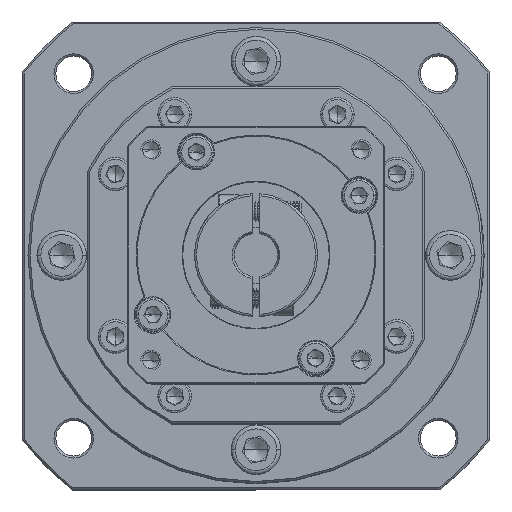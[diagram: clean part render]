
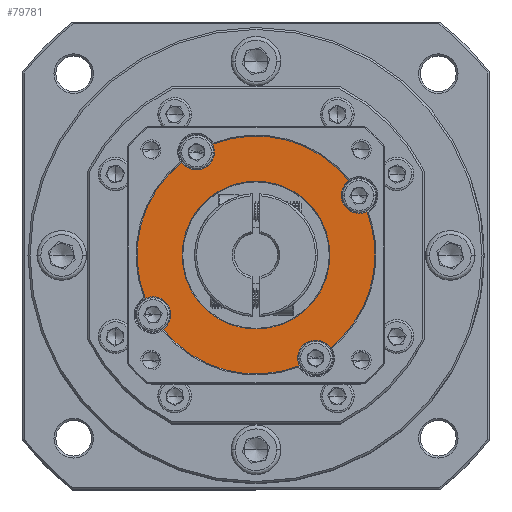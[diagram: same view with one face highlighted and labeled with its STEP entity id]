
A CAD part, top view. The second image highlights one B-rep face of the part: STEP entity #79781.
In plain terms, the highlighted planar face has unit normal (0, 0, 1).
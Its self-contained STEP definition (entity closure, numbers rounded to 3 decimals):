
#1028 = FACE_BOUND ( 'NONE', #116074, .T. ) ;
#1583 = CIRCLE ( 'NONE', #95428, 4.5 ) ;
#2012 = DIRECTION ( 'NONE',  ( 0., 0., 1. ) ) ;
#2435 = VERTEX_POINT ( 'NONE', #46275 ) ;
#2788 = DIRECTION ( 'NONE',  ( 0., 0., 1. ) ) ;
#4963 = VERTEX_POINT ( 'NONE', #48871 ) ;
#5647 = DIRECTION ( 'NONE',  ( 1., 0., 0. ) ) ;
#5939 = DIRECTION ( 'NONE',  ( 1., 0., 0. ) ) ;
#6524 = CARTESIAN_POINT ( 'NONE',  ( -59.469, 29.842, -1.259 ) ) ;
#7277 = VERTEX_POINT ( 'NONE', #35101 ) ;
#7392 = EDGE_CURVE ( 'NONE', #109145, #97842, #29233, .T. ) ;
#8204 = CARTESIAN_POINT ( 'NONE',  ( -87.401, 18.896, -1.259 ) ) ;
#8932 = DIRECTION ( 'NONE',  ( 0., 0., 1. ) ) ;
#9984 = EDGE_CURVE ( 'NONE', #97643, #91898, #62943, .T. ) ;
#11273 = CARTESIAN_POINT ( 'NONE',  ( -59.469, 29.842, -1.259 ) ) ;
#12878 = VERTEX_POINT ( 'NONE', #116821 ) ;
#13223 = ORIENTED_EDGE ( 'NONE', *, *, #26986, .F. ) ;
#14676 = EDGE_CURVE ( 'NONE', #12878, #84021, #45634, .T. ) ;
#15233 = ORIENTED_EDGE ( 'NONE', *, *, #86076, .F. ) ;
#15795 = DIRECTION ( 'NONE',  ( 1., 0., 0. ) ) ;
#16282 = DIRECTION ( 'NONE',  ( 0., 0., 1. ) ) ;
#17124 = EDGE_CURVE ( 'NONE', #7277, #64644, #1583, .T. ) ;
#17535 = AXIS2_PLACEMENT_3D ( 'NONE', #115900, #60988, #5939 ) ;
#19339 = DIRECTION ( 'NONE',  ( 0., 0., 1. ) ) ;
#20465 = DIRECTION ( 'NONE',  ( 1., 0., 0. ) ) ;
#25412 = FACE_OUTER_BOUND ( 'NONE', #80781, .T. ) ;
#26443 = EDGE_CURVE ( 'NONE', #38585, #57041, #35071, .T. ) ;
#26884 = EDGE_CURVE ( 'NONE', #91898, #97643, #63613, .T. ) ;
#26986 = EDGE_CURVE ( 'NONE', #2435, #57041, #33406, .T. ) ;
#27216 = ORIENTED_EDGE ( 'NONE', *, *, #78240, .F. ) ;
#28936 = CARTESIAN_POINT ( 'NONE',  ( -59.469, 29.842, -1.259 ) ) ;
#29233 = CIRCLE ( 'NONE', #74830, 30. ) ;
#30220 = AXIS2_PLACEMENT_3D ( 'NONE', #71302, #16282, #80555 ) ;
#30268 = ORIENTED_EDGE ( 'NONE', *, *, #87276, .T. ) ;
#31614 = CIRCLE ( 'NONE', #80948, 30. ) ;
#31824 = CIRCLE ( 'NONE', #47270, 4.5 ) ;
#32197 = AXIS2_PLACEMENT_3D ( 'NONE', #102951, #47999, #112125 ) ;
#33110 = CIRCLE ( 'NONE', #32197, 4.5 ) ;
#33406 = CIRCLE ( 'NONE', #103644, 4.5 ) ;
#34986 = CARTESIAN_POINT ( 'NONE',  ( -70.414, 57.774, -1.259 ) ) ;
#35071 = CIRCLE ( 'NONE', #65113, 30. ) ;
#35101 = CARTESIAN_POINT ( 'NONE',  ( -37.988, 44.842, -1.259 ) ) ;
#35317 = CARTESIAN_POINT ( 'NONE',  ( -44.469, 3.861, -1.259 ) ) ;
#35441 = AXIS2_PLACEMENT_3D ( 'NONE', #74345, #19339, #83643 ) ;
#35845 = ORIENTED_EDGE ( 'NONE', *, *, #17124, .F. ) ;
#36013 = VERTEX_POINT ( 'NONE', #69997 ) ;
#38268 = DIRECTION ( 'NONE',  ( 1., 0., 0. ) ) ;
#38585 = VERTEX_POINT ( 'NONE', #71335 ) ;
#39332 = CARTESIAN_POINT ( 'NONE',  ( -48.524, 1.909, -1.259 ) ) ;
#41153 = DIRECTION ( 'NONE',  ( 0., 0., 1. ) ) ;
#41233 = CARTESIAN_POINT ( 'NONE',  ( -74.469, 55.822, -1.259 ) ) ;
#42986 = CIRCLE ( 'NONE', #35441, 4.5 ) ;
#44212 = ORIENTED_EDGE ( 'NONE', *, *, #14676, .T. ) ;
#44570 = DIRECTION ( 'NONE',  ( 1., 0., 0. ) ) ;
#45634 = CIRCLE ( 'NONE', #53578, 30. ) ;
#46275 = CARTESIAN_POINT ( 'NONE',  ( -48.969, 3.861, -1.259 ) ) ;
#47270 = AXIS2_PLACEMENT_3D ( 'NONE', #41233, #105430, #50461 ) ;
#47575 = AXIS2_PLACEMENT_3D ( 'NONE', #96138, #41153, #105345 ) ;
#47804 = CARTESIAN_POINT ( 'NONE',  ( -59.469, 29.842, -1.259 ) ) ;
#47999 = DIRECTION ( 'NONE',  ( 0., 0., 1. ) ) ;
#48871 = CARTESIAN_POINT ( 'NONE',  ( -80.95, 14.842, -1.259 ) ) ;
#49258 = EDGE_CURVE ( 'NONE', #4963, #84021, #67158, .T. ) ;
#50461 = DIRECTION ( 'NONE',  ( 1., 0., 0. ) ) ;
#51169 = DIRECTION ( 'NONE',  ( 0., 0., 1. ) ) ;
#53578 = AXIS2_PLACEMENT_3D ( 'NONE', #56991, #2012, #66258 ) ;
#55077 = AXIS2_PLACEMENT_3D ( 'NONE', #35317, #99504, #44570 ) ;
#56933 = DIRECTION ( 'NONE',  ( 1., 0., 0. ) ) ;
#56991 = CARTESIAN_POINT ( 'NONE',  ( -59.469, 29.842, -1.259 ) ) ;
#57041 = VERTEX_POINT ( 'NONE', #39332 ) ;
#57804 = CARTESIAN_POINT ( 'NONE',  ( -44.469, 3.861, -1.259 ) ) ;
#59253 = ORIENTED_EDGE ( 'NONE', *, *, #103278, .F. ) ;
#60144 = CARTESIAN_POINT ( 'NONE',  ( -31.537, 40.787, -1.259 ) ) ;
#60681 = DIRECTION ( 'NONE',  ( 0., 0., 1. ) ) ;
#60988 = DIRECTION ( 'NONE',  ( 0., 0., -1. ) ) ;
#62002 = ORIENTED_EDGE ( 'NONE', *, *, #26443, .T. ) ;
#62943 = CIRCLE ( 'NONE', #17535, 18.644 ) ;
#63613 = CIRCLE ( 'NONE', #91325, 18.644 ) ;
#63941 = CARTESIAN_POINT ( 'NONE',  ( -59.469, 29.842, -1.259 ) ) ;
#64644 = VERTEX_POINT ( 'NONE', #60144 ) ;
#65113 = AXIS2_PLACEMENT_3D ( 'NONE', #28936, #93230, #38268 ) ;
#65740 = ORIENTED_EDGE ( 'NONE', *, *, #95879, .T. ) ;
#66258 = DIRECTION ( 'NONE',  ( 1., 0., 0. ) ) ;
#67052 = DIRECTION ( 'NONE',  ( 1., 0., 0. ) ) ;
#67158 = CIRCLE ( 'NONE', #47575, 4.5 ) ;
#67718 = EDGE_CURVE ( 'NONE', #96914, #97842, #31824, .T. ) ;
#69997 = CARTESIAN_POINT ( 'NONE',  ( -29.469, 29.842, -1.259 ) ) ;
#70408 = PLANE ( 'NONE',  #79164 ) ;
#70722 = EDGE_CURVE ( 'NONE', #12878, #96914, #33110, .T. ) ;
#70798 = DIRECTION ( 'NONE',  ( 0., 0., 1. ) ) ;
#71302 = CARTESIAN_POINT ( 'NONE',  ( -33.488, 44.842, -1.259 ) ) ;
#71335 = CARTESIAN_POINT ( 'NONE',  ( -82.914, 11.124, -1.259 ) ) ;
#73200 = DIRECTION ( 'NONE',  ( 1., 0., 0. ) ) ;
#74345 = CARTESIAN_POINT ( 'NONE',  ( -85.45, 14.842, -1.259 ) ) ;
#74830 = AXIS2_PLACEMENT_3D ( 'NONE', #63941, #8932, #73200 ) ;
#75471 = DIRECTION ( 'NONE',  ( 0., 0., -1. ) ) ;
#78240 = EDGE_CURVE ( 'NONE', #109659, #2435, #85046, .T. ) ;
#79164 = AXIS2_PLACEMENT_3D ( 'NONE', #6524, #70798, #15795 ) ;
#79640 = ORIENTED_EDGE ( 'NONE', *, *, #49258, .F. ) ;
#79761 = ORIENTED_EDGE ( 'NONE', *, *, #9984, .T. ) ;
#79781 = ADVANCED_FACE ( 'NONE', ( #1028, #25412 ), #70408, .T. ) ;
#80555 = DIRECTION ( 'NONE',  ( 1., 0., 0. ) ) ;
#80781 = EDGE_LOOP ( 'NONE', ( #15233, #62002, #13223, #27216, #30268, #65740, #35845, #59253, #94894, #111602, #87332, #44212, #79640 ) ) ;
#80948 = AXIS2_PLACEMENT_3D ( 'NONE', #47804, #111928, #56933 ) ;
#83643 = DIRECTION ( 'NONE',  ( 1., 0., 0. ) ) ;
#84021 = VERTEX_POINT ( 'NONE', #8204 ) ;
#85046 = CIRCLE ( 'NONE', #55077, 4.5 ) ;
#86076 = EDGE_CURVE ( 'NONE', #38585, #4963, #42986, .T. ) ;
#87276 = EDGE_CURVE ( 'NONE', #109659, #36013, #31614, .T. ) ;
#87332 = ORIENTED_EDGE ( 'NONE', *, *, #70722, .F. ) ;
#91325 = AXIS2_PLACEMENT_3D ( 'NONE', #11273, #75471, #20465 ) ;
#91898 = VERTEX_POINT ( 'NONE', #106499 ) ;
#93230 = DIRECTION ( 'NONE',  ( 0., 0., 1. ) ) ;
#94894 = ORIENTED_EDGE ( 'NONE', *, *, #7392, .T. ) ;
#95428 = AXIS2_PLACEMENT_3D ( 'NONE', #106181, #51169, #115336 ) ;
#95879 = EDGE_CURVE ( 'NONE', #36013, #64644, #97921, .T. ) ;
#96138 = CARTESIAN_POINT ( 'NONE',  ( -85.45, 14.842, -1.259 ) ) ;
#96914 = VERTEX_POINT ( 'NONE', #109856 ) ;
#97643 = VERTEX_POINT ( 'NONE', #105253 ) ;
#97842 = VERTEX_POINT ( 'NONE', #34986 ) ;
#97921 = CIRCLE ( 'NONE', #110763, 30. ) ;
#98282 = CARTESIAN_POINT ( 'NONE',  ( -40.752, 6.397, -1.259 ) ) ;
#99169 = CARTESIAN_POINT ( 'NONE',  ( -36.024, 48.559, -1.259 ) ) ;
#99504 = DIRECTION ( 'NONE',  ( 0., 0., 1. ) ) ;
#102951 = CARTESIAN_POINT ( 'NONE',  ( -74.469, 55.822, -1.259 ) ) ;
#103278 = EDGE_CURVE ( 'NONE', #109145, #7277, #106933, .T. ) ;
#103644 = AXIS2_PLACEMENT_3D ( 'NONE', #57804, #2788, #67052 ) ;
#105253 = CARTESIAN_POINT ( 'NONE',  ( -78.113, 29.842, -1.259 ) ) ;
#105345 = DIRECTION ( 'NONE',  ( 1., 0., 0. ) ) ;
#105430 = DIRECTION ( 'NONE',  ( 0., 0., 1. ) ) ;
#106181 = CARTESIAN_POINT ( 'NONE',  ( -33.488, 44.842, -1.259 ) ) ;
#106499 = CARTESIAN_POINT ( 'NONE',  ( -40.825, 29.842, -1.259 ) ) ;
#106933 = CIRCLE ( 'NONE', #30220, 4.5 ) ;
#109145 = VERTEX_POINT ( 'NONE', #99169 ) ;
#109659 = VERTEX_POINT ( 'NONE', #98282 ) ;
#109856 = CARTESIAN_POINT ( 'NONE',  ( -69.969, 55.822, -1.259 ) ) ;
#110763 = AXIS2_PLACEMENT_3D ( 'NONE', #115619, #60681, #5647 ) ;
#111602 = ORIENTED_EDGE ( 'NONE', *, *, #67718, .F. ) ;
#111928 = DIRECTION ( 'NONE',  ( 0., 0., 1. ) ) ;
#112125 = DIRECTION ( 'NONE',  ( 1., 0., 0. ) ) ;
#115336 = DIRECTION ( 'NONE',  ( 1., 0., 0. ) ) ;
#115619 = CARTESIAN_POINT ( 'NONE',  ( -59.469, 29.842, -1.259 ) ) ;
#115900 = CARTESIAN_POINT ( 'NONE',  ( -59.469, 29.842, -1.259 ) ) ;
#116074 = EDGE_LOOP ( 'NONE', ( #117485, #79761 ) ) ;
#116821 = CARTESIAN_POINT ( 'NONE',  ( -78.186, 53.286, -1.259 ) ) ;
#117485 = ORIENTED_EDGE ( 'NONE', *, *, #26884, .T. ) ;
